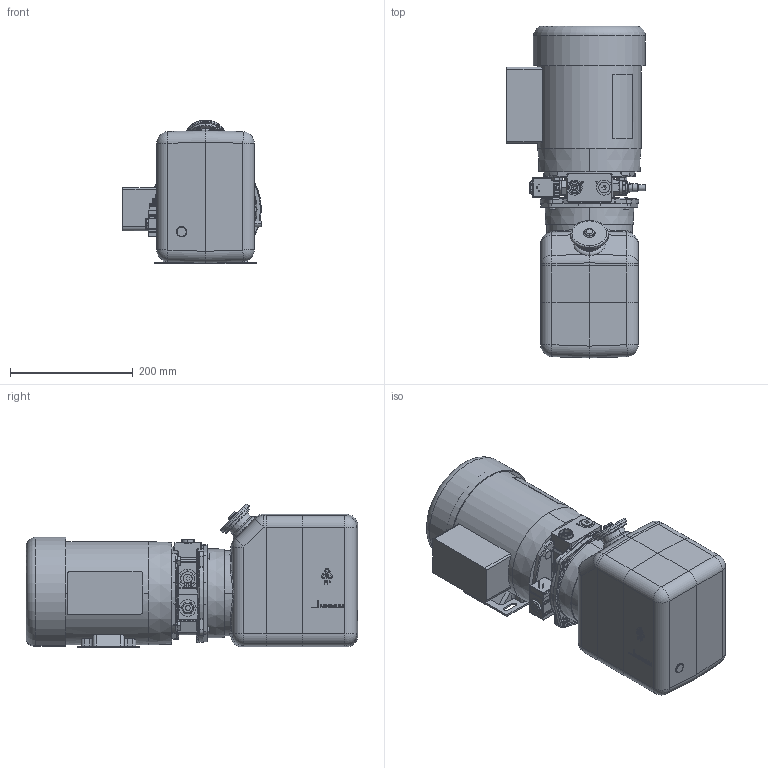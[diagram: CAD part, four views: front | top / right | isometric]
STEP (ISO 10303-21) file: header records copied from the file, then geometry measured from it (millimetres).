
FILE_DESCRIPTION((''),'2;1');
FILE_NAME('648436_SW0001','2013-12-05T',('GB10196'),('OILDYNE'),'PRO/ENGINEER BY PARAMETRIC TECHNOLOGY CORPORATION, 2009300','PRO/ENGINEER BY PARAMETRIC TECHNOLOGY CORPORATION, 2009300','');
FILE_SCHEMA(('CONFIG_CONTROL_DESIGN'));
Products named in the file (1): 648436_SW0001
Bounding box: 225.67 x 540 x 234.17 mm (x, y, z)
Surface area: 788517.4 mm2 (no closed solid volume)
Topology: 0 solids, 82 shells, 1597 faces, 5091 edges, 3519 vertices
Faces by surface type: cylinder 452, plane 447, bspline 246, cone 240, torus 119, sphere 93
Entity records: 68923 total; most frequent: CARTESIAN_POINT 26473, DIRECTION 8513, ORIENTED_EDGE 8357, EDGE_CURVE 5084, VERTEX_POINT 3519, AXIS2_PLACEMENT_3D 3173, VECTOR 2167, LINE 2167
